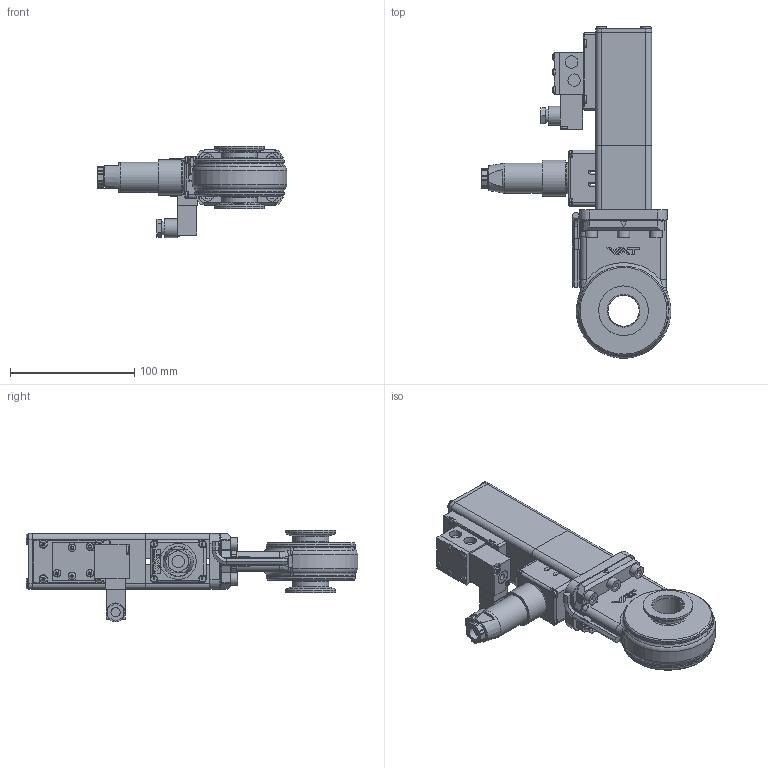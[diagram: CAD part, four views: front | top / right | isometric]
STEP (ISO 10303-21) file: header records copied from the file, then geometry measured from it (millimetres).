
FILE_DESCRIPTION( ( 'Unknown' ), '1' );
FILE_NAME( 'X:/Daten ( aktueller Bestand )/Projekte und Zeichnungen/Solid Edge/STP-Dateien/Schieberventile KF, handbetätigt,el.pneu/315444.stp', 'Unknown', ( 'Unknown' ), ( 'Unknown' ), 'PSStep 14.0', 'Unknown', ' ' );
FILE_SCHEMA( ( 'AUTOMOTIVE_DESIGN { 1 0 10303 214 1 1 1 1 }' ) );
Length unit declared in the file: millimetre
Products named in the file (27): 94800-r1.7; N-5018-005.1_7; N-6024-524.1_7; N-7557-016_3.1_0; N-7557-016_2.1_7; N-7557-018.1_7; N-7557-016_1.1_7; 66268-r1.5_0; 63172-01_3; 69852-01_3; 87466-01.1_0; Assem1; 252080.1; 252066.1; 65209-01.2_3; 63152-01.4_3; 73280-01_1.1_3; 69968-01.1_3; 70613-01.2; 66481-01.2; 228772.1_3; n-6024-526; 94294-01.3; n-8504-002; N-6016-078.1; 69672-01
Assembly tree (48 placements, depth 3):
  Assem1
    252080.1
    252066.1  x4
    65209-01.2_3
    63152-01.4_3
    73280-01_1.1_3
    69968-01.1_3
    70613-01.2
    66481-01.2
    228772.1_3  x6
    n-6024-526  x4
    87466-01.1_0  x2
    94294-01.3
    n-8504-002
    N-6016-078.1  x4
    69672-01
    66268-r1.5_0
      63172-01_3
      69852-01_3
      87466-01.1_0
      66268-r1.5_0
    94800-r1.7
      N-5018-005.1_7  x2
      N-6024-524.1_7  x6
      N-7557-016_3.1_0
      N-7557-016_2.1_7
      N-7557-018.1_7
      N-7557-016_1.1_7
Bounding box: 152.51 x 266.84 x 73.35 mm (x, y, z)
Volume: 383718.9 mm3; surface area: 194751.9 mm2
Topology: 46 solids, 46 shells, 1594 faces, 3943 edges, 2582 vertices
Faces by surface type: plane 1001, cylinder 370, cone 63, torus 53, extrusion 48, bspline 47, sphere 12
Full cylindrical faces by diameter (mm): 1.95 x4, 2 x4, 2.25 x4, 2.5 x10, 3 x23, 3.2 x2, 3.3 x8, 3.4 x10, 3.5 x4, 4 x10, 4.15 x4, 4.2 x2, 4.65 x4, 5 x3, 5.4 x4, 5.6 x8, 5.95 x2, 6 x29, 6.2 x10, 6.95 x2, 7.5 x1, 8.1 x4, 8.8 x2, 9.85 x1, 10 x11, 10.6 x1, 11 x1, 13.3 x1, 13.85 x1, 14.9 x1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
Entity records: 51874 total; most frequent: CARTESIAN_POINT 11461, DIRECTION 5997, ORIENTED_EDGE 5898, EDGE_CURVE 2949, VERTEX_POINT 2051, AXIS2_PLACEMENT_3D 2010, VECTOR 1977, LINE 1929
